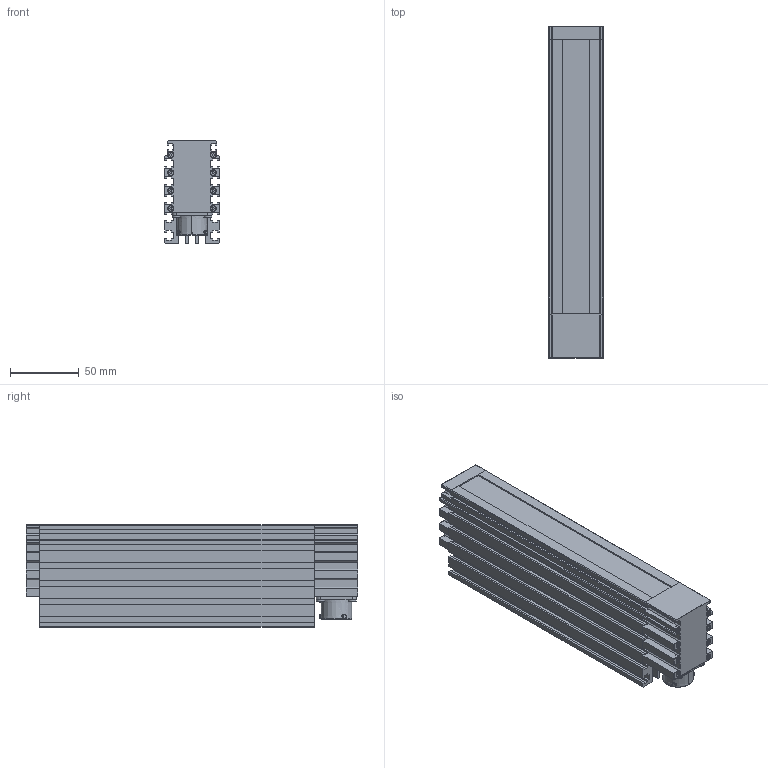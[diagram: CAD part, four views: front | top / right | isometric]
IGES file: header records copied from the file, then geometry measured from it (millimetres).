
Start section: SolidWorks IGES file using analytic representation for surfaces
Global section: file name: C:\Users\88691\Desktop\VST LIGHTING\VST LINEAR LIGHT 線燈\VLN 線光\VLN STEP圖檔用\VLN (L_D_X)-200W _ Drawing _ L1255A (L1270A_L1286A_L1301A)-A00101.IGS; native system: SolidWorks 2020; preprocessor: SolidWorks 2020; author: 88691; date: 240624.130558; units: millimetre
Bounding box: 40 x 242 x 75 mm (x, y, z)
Surface area: 141842.5 mm2 (no closed solid volume)
Topology: 0 solids, 0 shells, 1158 faces, 12124 edges, 12123 vertices
Faces by surface type: bspline 734, revolution 424
